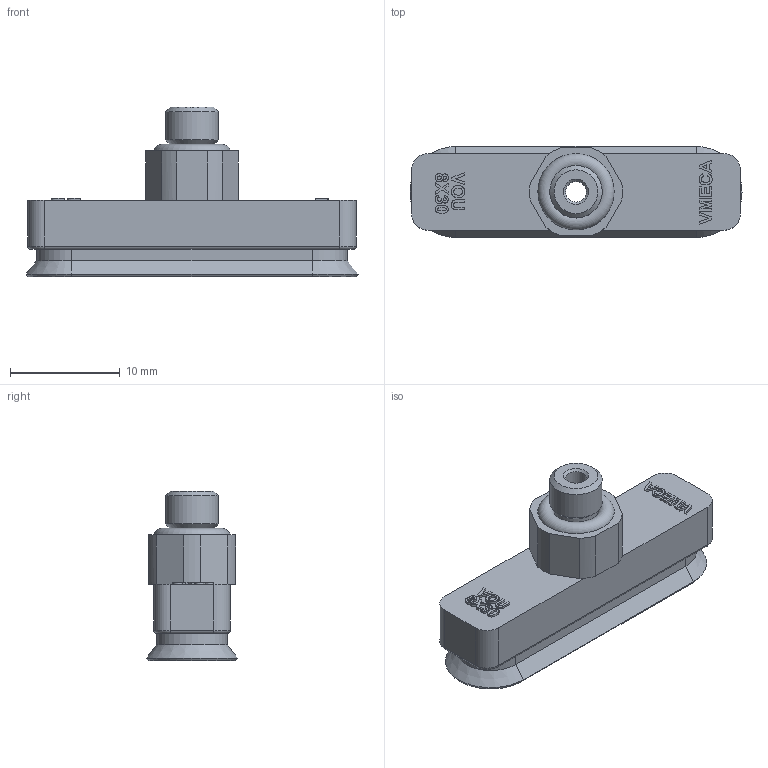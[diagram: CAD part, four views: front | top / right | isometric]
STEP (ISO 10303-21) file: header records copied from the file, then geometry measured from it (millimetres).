
FILE_DESCRIPTION( ( 'Unknown' ), '1' );
FILE_NAME( 'D:/New PAD/PAD-VOU/Part/STEP/VOU 8X30_M5M.stp', 'Unknown', ( 'Unknown' ), ( 'Unknown' ), 'XStep 1.0', 'Unknown', ' ' );
FILE_SCHEMA( ( 'automotive_design' ) );
Length unit declared in the file: millimetre
Products named in the file (1): Fitting-M5M VOU
Bounding box: 30.32 x 8.32 x 15.5 mm (x, y, z)
Volume: 1692.7 mm3; surface area: 1276.5 mm2
Topology: 1 solids, 1 shells, 161 faces, 389 edges, 250 vertices
Faces by surface type: extrusion 85, plane 44, cylinder 20, cone 7, torus 5
Full cylindrical faces by diameter (mm): 1.9 x1, 3 x1, 4 x1, 4.8 x1
Entity records: 6819 total; most frequent: CARTESIAN_POINT 1955, ORIENTED_EDGE 750, DIRECTION 569, EDGE_CURVE 375, VECTOR 303, VERTEX_POINT 250, LINE 218, EDGE_LOOP 197
